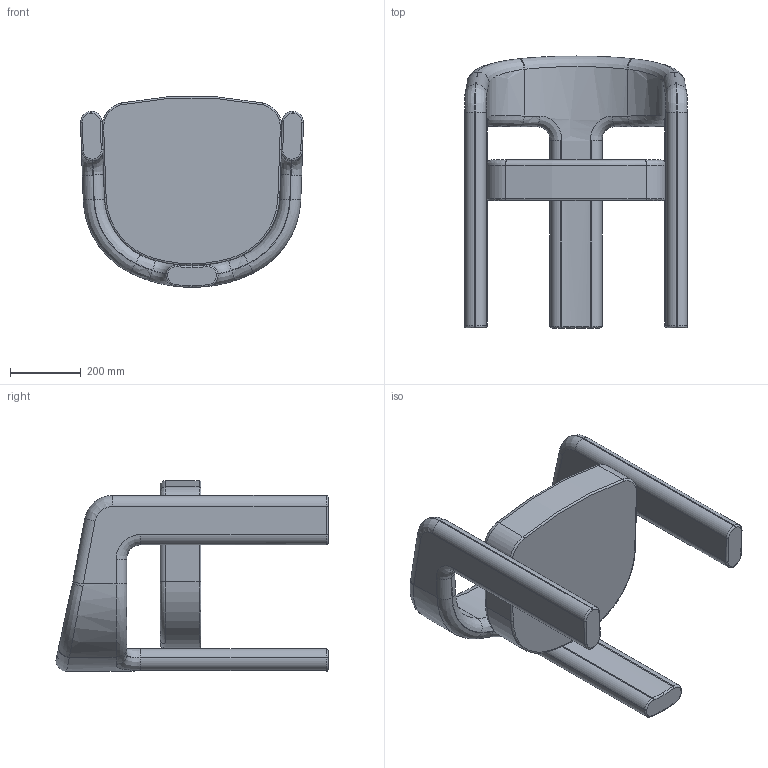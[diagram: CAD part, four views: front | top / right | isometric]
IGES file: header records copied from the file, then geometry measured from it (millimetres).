
Start section: SolidWorks IGES file using analytic representation for surfaces
Global section: file name: Y:\eforma\TECNICO\SOLIDWORKS\NEW LINE\1-SEDIE\EGLE\08 modelli 3D web\EGLE_3D web.IGS; native system: SolidWorks 2022; preprocessor: SolidWorks 2022; author: eforma.tech; date: 250424.114942; units: millimetre
Bounding box: 631.33 x 770 x 539.77 mm (x, y, z)
Volume: 50108397.2 mm3; surface area: 1738948.3 mm2
Topology: 2 solids, 2 shells, 149 faces, 351 edges, 204 vertices
Faces by surface type: revolution 106, bspline 22, plane 21
